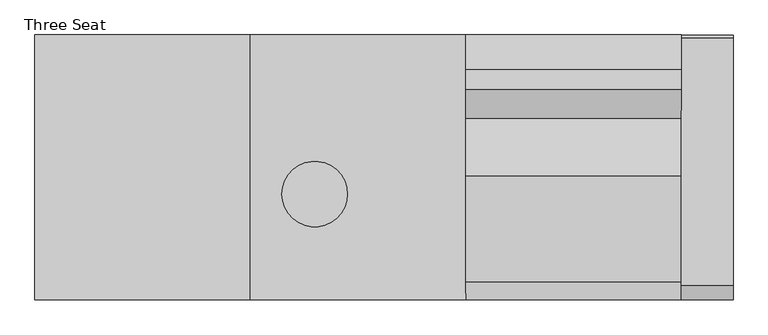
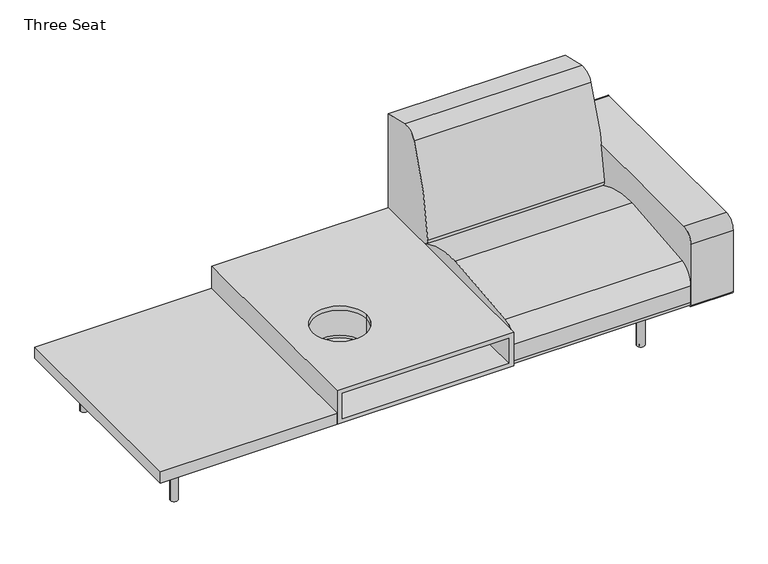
"""IFC4 building model written with IfcOpenShell, lengths in millimetres: furniture geometry, Coalesse_AM_Seating_LoungeChair_Sistema_LegBase_ThreeSeat : Three Seat."""

from ifc_helpers import new_model, si_unit, point, frame, frame_2d, origin, origin_with_axes, place, context, project, spatial, polyline, circle_curve, trimmed, segment, composite_curve, outline, extrude, source, transform, mapped, element, save
from ifc_brep_helpers import plane_surface, revolved_surface, advanced_brep


def three_seat_79fc0003(model_context):
    return source(origin(), model_context, "Body", "SolidModel", [
        extrude(outline(polyline([(374.4965227, 459.4795619), (374.4965227, -461.2704381), (-374.8034773, -461.2704381), (-374.8034773, 459.4795619), (374.4965227, 459.4795619)])), frame((0.0, 0.0, 204.47), z_axis=(0.0, 0.0, 1.0), x_axis=(1.0, 0.0, 0.0)), (0.0, 0.0, 1.0), 51.0294654),
        advanced_brep(
        [(1102.9069667, -461.2704381, 336.5211742), (396.2928302, -461.2704381, 336.5211742), (396.2928302, 459.4795619, 336.5211742), (1102.9069667, 459.4795619, 336.5211742), (711.5952223, -93.7879891, 336.5211742), (484.2332034, -93.7879891, 336.5211742), (396.2928302, -461.2704381, 223.173587), (396.2928302, 459.4795619, 223.173587), (1123.7965227, -461.2704381, 354.7774), (374.4965227, -461.2704381, 354.7774), (374.4965227, -461.2704381, 204.47), (1123.7965227, -461.2704381, 204.47), (1102.9069667, -461.2704381, 223.173587), (1123.7965227, 459.4795619, 354.7774), (1123.7965227, 459.4795619, 204.47), (374.4965227, 459.4795619, 204.47), (374.4965227, 459.4795619, 354.7774), (1102.9069667, 459.4795619, 223.173587), (484.2332034, -93.7879891, 354.7774), (711.5952223, -93.7879891, 354.7774), (484.2332034, -93.7879891, 223.173587), (711.5952223, -93.7879891, 223.173587), (484.2332034, -93.7879891, 212.4123377), (711.5952223, -93.7879891, 212.4123377)],
        [
            (0, 1),
            (1, 2),
            (2, 3),
            (3, 0),
            (4, 5, circle_curve(frame((597.9142128, -93.7879891, 336.5211742), z_axis=(0.0, 0.0, 1.0), x_axis=(1.0, 0.0, 0.0)), 113.6810095)),
            (5, 4, circle_curve(frame((597.9142128, -93.7879891, 336.5211742), z_axis=(0.0, 0.0, 1.0), x_axis=(1.0, 0.0, 0.0)), 113.6810095)),
            (1, 6),
            (6, 7),
            (7, 2),
            (8, 9),
            (9, 10),
            (10, 11),
            (11, 8),
            (0, 12),
            (12, 6),
            (13, 14),
            (14, 15),
            (15, 16),
            (16, 13),
            (7, 17),
            (17, 3),
            (8, 13),
            (16, 9),
            (18, 19, circle_curve(frame((597.9142128, -93.7879891, 354.7774), z_axis=(0.0, 0.0, -1.0), x_axis=(1.0, 0.0, 0.0)), 113.6810095)),
            (19, 18, circle_curve(frame((597.9142128, -93.7879891, 354.7774), z_axis=(0.0, 0.0, -1.0), x_axis=(1.0, 0.0, 0.0)), 113.6810095)),
            (15, 10),
            (14, 11),
            (17, 12),
            (20, 21, circle_curve(frame((597.9142128, -93.7879891, 223.173587), z_axis=(0.0, 0.0, -1.0), x_axis=(1.0, 0.0, 0.0)), 113.6810095)),
            (21, 20, circle_curve(frame((597.9142128, -93.7879891, 223.173587), z_axis=(0.0, 0.0, -1.0), x_axis=(1.0, 0.0, 0.0)), 113.6810095)),
            (22, 23, circle_curve(frame((597.9142128, -93.7879891, 212.4123377), z_axis=(0.0, 0.0, 1.0), x_axis=(1.0, 0.0, 0.0)), 113.6810095)),
            (23, 22, circle_curve(frame((597.9142128, -93.7879891, 212.4123377), z_axis=(0.0, 0.0, 1.0), x_axis=(1.0, 0.0, 0.0)), 113.6810095)),
            (23, 21),
            (20, 22),
            (18, 5),
            (4, 19),
        ],
        [
            plane_surface(frame((396.2928302, -461.2704381, 336.5211742), z_axis=(0.0, 0.0, -1.0), x_axis=(0.0, 1.0, 0.0))),
            plane_surface(frame((396.2928302, -461.2704381, 223.173587), z_axis=(1.0, 0.0, 0.0), x_axis=(0.0, 1.0, 0.0))),
            plane_surface(frame((378.0346424, -461.2704381, 354.7774), z_axis=(0.0, -1.0, 0.0), x_axis=(-1.0, 0.0, 0.0))),
            plane_surface(frame((378.0346424, 459.4795619, 354.7774), z_axis=(0.0, 1.0, 0.0), x_axis=(1.0, 0.0, 0.0))),
            plane_surface(frame((1123.7965227, -461.2704381, 354.7774), z_axis=(0.0, 0.0, 1.0), x_axis=(0.0, 1.0, 0.0))),
            plane_surface(frame((374.4965227, -461.2704381, 354.7774), z_axis=(-1.0, 0.0, 0.0), x_axis=(0.0, 1.0, 0.0))),
            plane_surface(frame((374.4965227, -461.2704381, 204.47), z_axis=(0.0, 0.0, -1.0), x_axis=(0.0, 1.0, 0.0))),
            plane_surface(frame((1123.7965227, -461.2704381, 204.47), z_axis=(1.0, 0.0, 0.0), x_axis=(0.0, 1.0, 0.0))),
            plane_surface(frame((1102.9069667, -461.2704381, 336.5211742), z_axis=(-1.0, 0.0, 0.0), x_axis=(0.0, 1.0, 0.0))),
            plane_surface(frame((1102.9069667, -461.2704381, 223.173587), z_axis=(0.0, 0.0, 1.0), x_axis=(0.0, 1.0, 0.0))),
            plane_surface(frame((711.5952223, -93.7879891, 212.4123377), z_axis=(0.0, 0.0, 1.0), x_axis=(0.0, -1.0, 0.0))),
            revolved_surface(polyline([(711.5952222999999, -93.7879891, 212.41233770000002), (711.5952222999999, -93.7879891, 223.173587)]), (597.9142128, -93.7879891, 496.2226929), (0.0, 0.0, -1.0)),
            revolved_surface(polyline([(711.5952222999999, -93.7879891, 336.5211742), (711.5952222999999, -93.7879891, 354.7774)]), (597.9142128, -93.7879891, 496.2226929), (0.0, 0.0, -1.0)),
        ],
        [
            (0, [[1, 2, 3, 4], [5, 6]]),
            (1, [[7, 8, 9, -2]]),
            (2, [[10, 11, 12, 13], [14, 15, -7, -1]]),
            (3, [[16, 17, 18, 19], [-3, -9, 20, 21]]),
            (4, [[-10, 22, -19, 23], [24, 25]]),
            (5, [[-11, -23, -18, 26]]),
            (6, [[-12, -26, -17, 27]]),
            (7, [[-13, -27, -16, -22]]),
            (8, [[-14, -4, -21, 28]]),
            (9, [[-15, -28, -20, -8], [29, 30]]),
            (10, [[31, 32]]),
            (11, [[-32, 33, -29, 34]]),
            (12, [[35, -5, 36, -24]]),
            (11, [[-31, -34, -30, -33]]),
            (12, [[-35, -25, -36, -6]]),
        ],
    ),
        extrude(outline(composite_curve([segment(trimmed(circle_curve(frame_2d((597.9142128, -93.7879891)), 127.924967), [point((469.9892458, -93.7879891))], [point((725.8391799, -93.7879891))], False, "CARTESIAN"), True, "CONTINUOUS"), segment(trimmed(circle_curve(frame_2d((597.9142128, -93.7879891)), 127.924967), [point((725.8391799, -93.7879891))], [point((469.9892458, -93.7879891))], False, "CARTESIAN"), True, "CONTINUOUS")], self_intersect=False), holes=[composite_curve([segment(trimmed(circle_curve(frame_2d((597.9142128, -93.7879891)), 113.6810095), [point((484.2332034, -93.7879891))], [point((711.5952223, -93.7879891))], True, "CARTESIAN"), True, "CONTINUOUS"), segment(trimmed(circle_curve(frame_2d((597.9142128, -93.7879891)), 113.6810095), [point((711.5952223, -93.7879891))], [point((484.2332034, -93.7879891))], True, "CARTESIAN"), True, "CONTINUOUS")], self_intersect=False)]), frame((0.0, 0.0, 212.4123377), z_axis=(0.0, 0.0, 1.0), x_axis=(1.0, 0.0, 0.0)), (0.0, 0.0, 1.0), 124.1087275),
        extrude(outline(composite_curve([segment(polyline([(-461.2704381, 212.4103341), (-461.2704381, 487.0244726)]), True, "CONTINUOUS"), segment(trimmed(circle_curve(frame_2d((-410.4704381, 487.0244726)), 50.8), [point((-461.2704381, 487.0244726))], [point((-410.4704381, 537.8244726))], False, "CARTESIAN"), True, "CONTINUOUS"), segment(polyline([(-410.4704381, 537.8244726), (450.1139321, 537.8244726)]), True, "CONTINUOUS"), segment(trimmed(circle_curve(frame_2d((450.1139321, 530.2044726)), 7.62), [point((450.1139321, 537.8244726))], [point((457.7339321, 530.2044726))], False, "CARTESIAN"), True, "CONTINUOUS"), segment(polyline([(457.7339321, 530.2044726), (457.7339321, 217.4903341)]), True, "CONTINUOUS"), segment(trimmed(circle_curve(frame_2d((445.0339321, 217.4903341)), 12.7), [point((457.7339321, 217.4903341))], [point((445.0339321, 204.7903341))], False, "CARTESIAN"), True, "CONTINUOUS"), segment(polyline([(445.0339321, 204.7903341), (-453.6504381, 204.7903341)]), True, "CONTINUOUS"), segment(trimmed(circle_curve(frame_2d((-453.6504381, 212.4103341)), 7.62), [point((-453.6504381, 204.7903341))], [point((-461.2704381, 212.4103341))], False, "CARTESIAN"), True, "CONTINUOUS")], self_intersect=False)), frame((1873.0965227, 0.0, 0.0), z_axis=(1.0, 0.0, 0.0), x_axis=(0.0, 1.0, 0.0)), (0.0, 0.0, 1.0), 179.5663651),
        extrude(outline(composite_curve([segment(polyline([(459.4795619, 775.8234697), (459.4795619, 228.1929806)]), True, "CONTINUOUS"), segment(trimmed(circle_curve(frame_2d((191.495971, 228.1929806)), 267.983591), [point((459.4795619, 228.1929806))], [point((458.9860775, 211.937276))], False, "CARTESIAN"), True, "CONTINUOUS"), segment(polyline([(458.9860775, 211.937276), (183.8457951, 360.6719742)]), True, "CONTINUOUS"), segment(trimmed(circle_curve(frame_2d((195.9245701, 383.0161724)), 25.4), [point((183.8457951, 360.6719742))], [point((170.6161698, 385.1713698))], False, "CARTESIAN"), True, "CONTINUOUS"), segment(trimmed(circle_curve(frame_2d((1327.5544182, 286.6495247)), 1161.1256023), [point((170.6161698, 385.1713698))], [point((271.1088001, 768.4537592))], False, "CARTESIAN"), True, "CONTINUOUS"), segment(trimmed(circle_curve(frame_2d((326.5730192, 743.158661)), 60.96), [point((271.1088001, 768.4537592))], [point((339.9143278, 802.6408523))], False, "CARTESIAN"), True, "CONTINUOUS"), segment(polyline([(339.9143278, 802.6408523), (459.4795619, 775.8234697)]), True, "CONTINUOUS")], self_intersect=False)), frame((1123.7965227, 0.0, 0.0), z_axis=(1.0, 0.0, 0.0), x_axis=(0.0, 1.0, 0.0)), (0.0, 0.0, 1.0), 749.3),
        extrude(outline(composite_curve([segment(trimmed(circle_curve(frame_2d((-438.9184381, 226.822)), 22.352), [point((-438.9184381, 204.47))], [point((-461.2704381, 226.822))], False, "CARTESIAN"), True, "CONTINUOUS"), segment(polyline([(-461.2704381, 226.822), (-461.2704381, 301.4421993)]), True, "CONTINUOUS"), segment(trimmed(circle_curve(frame_2d((-385.0704381, 301.4421993)), 76.2), [point((-461.2704381, 301.4421993))], [point((-398.9277015, 376.3716077))], False, "CARTESIAN"), True, "CONTINUOUS"), segment(trimmed(circle_curve(frame_2d((2.2103559, -1792.6740646)), 2205.8265729), [point((-398.9277015, 376.3716077))], [point((-31.1968175, 412.8995185))], False, "CARTESIAN"), True, "CONTINUOUS"), segment(trimmed(circle_curve(frame_2d((-24.5128424, -28.3829182)), 441.333054), [point((-31.1968175, 412.8995185))], [point((184.5757008, 360.2774035))], False, "CARTESIAN"), True, "CONTINUOUS"), segment(polyline([(184.5757008, 360.2774035), (458.9860775, 211.937276)]), True, "CONTINUOUS"), segment(trimmed(circle_curve(frame_2d((442.3266309, 226.7871991)), 22.3171991), [point((458.9860775, 211.937276))], [point((442.3266309, 204.47))], False, "CARTESIAN"), True, "CONTINUOUS"), segment(polyline([(442.3266309, 204.47), (-438.9184381, 204.47)]), True, "CONTINUOUS")], self_intersect=False)), frame((1123.7965227, 0.0, 0.0), z_axis=(1.0, 0.0, 0.0), x_axis=(0.0, 1.0, 0.0)), (0.0, 0.0, 1.0), 749.3),
        extrude(outline(composite_curve([segment(trimmed(circle_curve(frame_2d((1738.4765227, 335.9943389)), 6.096), [point((1744.5725227, 335.9943389))], [point((1732.3805227, 335.9943389))], False, "CARTESIAN"), True, "CONTINUOUS"), segment(trimmed(circle_curve(frame_2d((1738.4765227, 335.9943389)), 6.096), [point((1732.3805227, 335.9943389))], [point((1744.5725227, 335.9943389))], False, "CARTESIAN"), True, "CONTINUOUS")], self_intersect=False)), origin_with_axes(), (0.0, 0.0, 1.0), 4.3662291),
        extrude(outline(composite_curve([segment(trimmed(circle_curve(frame_2d((1738.4765227, -327.2630889)), 6.096), [point((1744.5725227, -327.2630889))], [point((1732.3805227, -327.2630889))], False, "CARTESIAN"), True, "CONTINUOUS"), segment(trimmed(circle_curve(frame_2d((1738.4765227, -327.2630889)), 6.096), [point((1732.3805227, -327.2630889))], [point((1744.5725227, -327.2630889))], False, "CARTESIAN"), True, "CONTINUOUS")], self_intersect=False)), origin_with_axes(), (0.0, 0.0, 1.0), 4.3662291),
        extrude(outline(composite_curve([segment(polyline([(157.0399209, 1751.056375), (201.7356243, 1751.056375)]), True, "CONTINUOUS"), segment(trimmed(circle_curve(frame_2d((201.7356243, 1748.008375)), 3.048), [point((201.7356243, 1751.056375))], [point((204.7836243, 1748.008375))], False, "CARTESIAN"), True, "CONTINUOUS"), segment(polyline([(204.7836243, 1748.008375), (204.7836243, 1728.666199)]), True, "CONTINUOUS"), segment(trimmed(circle_curve(frame_2d((201.7356243, 1728.666199)), 3.048), [point((204.7836243, 1728.666199))], [point((201.7356243, 1725.618199))], False, "CARTESIAN"), True, "CONTINUOUS"), segment(polyline([(201.7356243, 1725.618199), (157.1249936, 1725.618199)]), True, "CONTINUOUS"), segment(trimmed(circle_curve(frame_2d((157.1249936, 1728.7512718)), 3.1330728), [point((157.1249936, 1725.618199))], [point((153.9919209, 1728.7512718))], False, "CARTESIAN"), True, "CONTINUOUS"), segment(polyline([(153.9919209, 1728.7512718), (153.9919209, 1748.008375)]), True, "CONTINUOUS"), segment(trimmed(circle_curve(frame_2d((157.0399209, 1748.008375)), 3.048), [point((153.9919209, 1748.008375))], [point((157.0399209, 1751.056375))], False, "CARTESIAN"), True, "CONTINUOUS")], self_intersect=False)), frame((0.0, 222.3519802, 0.0), z_axis=(0.0, 1.0, 0.0), x_axis=(0.0, 0.0, 1.0)), (0.0, 0.0, 1.0), 92.6273161),
        extrude(outline(composite_curve([segment(polyline([(157.0399209, 1751.056375), (201.7356243, 1751.056375)]), True, "CONTINUOUS"), segment(trimmed(circle_curve(frame_2d((201.7356243, 1748.008375)), 3.048), [point((201.7356243, 1751.056375))], [point((204.7836243, 1748.008375))], False, "CARTESIAN"), True, "CONTINUOUS"), segment(polyline([(204.7836243, 1748.008375), (204.7836243, 1728.666199)]), True, "CONTINUOUS"), segment(trimmed(circle_curve(frame_2d((201.7356243, 1728.666199)), 3.048), [point((204.7836243, 1728.666199))], [point((201.7356243, 1725.618199))], False, "CARTESIAN"), True, "CONTINUOUS"), segment(polyline([(201.7356243, 1725.618199), (157.1249936, 1725.618199)]), True, "CONTINUOUS"), segment(trimmed(circle_curve(frame_2d((157.1249936, 1728.7512718)), 3.1330728), [point((157.1249936, 1725.618199))], [point((153.9919209, 1728.7512718))], False, "CARTESIAN"), True, "CONTINUOUS"), segment(polyline([(153.9919209, 1728.7512718), (153.9919209, 1748.008375)]), True, "CONTINUOUS"), segment(trimmed(circle_curve(frame_2d((157.0399209, 1748.008375)), 3.048), [point((153.9919209, 1748.008375))], [point((157.0399209, 1751.056375))], False, "CARTESIAN"), True, "CONTINUOUS")], self_intersect=False)), frame((0.0, -314.9792963, 0.0), z_axis=(0.0, 1.0, 0.0), x_axis=(0.0, 0.0, 1.0)), (0.0, 0.0, 1.0), 92.6273161),
        extrude(outline(composite_curve([segment(trimmed(circle_curve(frame_2d((176.3356606, 1715.8259944)), 3.048), [point((179.3836606, 1715.8259944))], [point((176.3356606, 1712.7779944))], False, "CARTESIAN"), True, "CONTINUOUS"), segment(polyline([(176.3356606, 1712.7779944), (157.0399209, 1712.7779944)]), True, "CONTINUOUS"), segment(trimmed(circle_curve(frame_2d((157.0399209, 1715.8259944)), 3.048), [point((157.0399209, 1712.7779944))], [point((153.9919209, 1715.8259944))], False, "CARTESIAN"), True, "CONTINUOUS"), segment(polyline([(153.9919209, 1715.8259944), (153.9919209, 1760.5135501)]), True, "CONTINUOUS"), segment(trimmed(circle_curve(frame_2d((157.056462, 1760.5135501)), 3.0645412), [point((153.9919209, 1760.5135501))], [point((157.056462, 1763.5780913))], False, "CARTESIAN"), True, "CONTINUOUS"), segment(polyline([(157.056462, 1763.5780913), (176.3356606, 1763.5780913)]), True, "CONTINUOUS"), segment(trimmed(circle_curve(frame_2d((176.3356606, 1760.5300913)), 3.048), [point((176.3356606, 1763.5780913))], [point((179.3836606, 1760.5300913))], False, "CARTESIAN"), True, "CONTINUOUS"), segment(polyline([(179.3836606, 1760.5300913), (179.3836606, 1715.8259944)]), True, "CONTINUOUS")], self_intersect=False)), frame((0.0, -222.3519802, 0.0), z_axis=(0.0, 1.0, 0.0), x_axis=(0.0, 0.0, 1.0)), (0.0, 0.0, 1.0), 444.7039604),
        extrude(outline(composite_curve([segment(trimmed(circle_curve(frame_2d((1738.4765227, 332.3095741)), 16.51), [point((1754.9865227, 332.3095741))], [point((1721.9665227, 332.3095741))], False, "CARTESIAN"), True, "CONTINUOUS"), segment(trimmed(circle_curve(frame_2d((1738.4765227, 332.3095741)), 16.51), [point((1721.9665227, 332.3095741))], [point((1754.9865227, 332.3095741))], False, "CARTESIAN"), True, "CONTINUOUS")], self_intersect=False)), frame((0.0, 0.0, 4.3662291), z_axis=(0.0, 0.0, 1.0), x_axis=(1.0, 0.0, 0.0)), (0.0, 0.0, 1.0), 200.1037709),
        extrude(outline(composite_curve([segment(trimmed(circle_curve(frame_2d((1738.0796477, -327.5470741)), 16.51), [point((1754.5896477, -327.5470741))], [point((1721.5696477, -327.5470741))], False, "CARTESIAN"), True, "CONTINUOUS"), segment(trimmed(circle_curve(frame_2d((1738.0796477, -327.5470741)), 16.51), [point((1721.5696477, -327.5470741))], [point((1754.5896477, -327.5470741))], False, "CARTESIAN"), True, "CONTINUOUS")], self_intersect=False)), frame((0.0, 0.0, 4.3662291), z_axis=(0.0, 0.0, 1.0), x_axis=(1.0, 0.0, 0.0)), (0.0, 0.0, 1.0), 200.1037709),
        extrude(outline(composite_curve([segment(trimmed(circle_curve(frame_2d((-240.1834773, 335.9943389)), 6.096), [point((-246.2794773, 335.9943389))], [point((-234.0874773, 335.9943389))], False, "CARTESIAN"), True, "CONTINUOUS"), segment(trimmed(circle_curve(frame_2d((-240.1834773, 335.9943389)), 6.096), [point((-234.0874773, 335.9943389))], [point((-246.2794773, 335.9943389))], False, "CARTESIAN"), True, "CONTINUOUS")], self_intersect=False)), origin_with_axes(), (0.0, 0.0, 1.0), 4.3662291),
        extrude(outline(composite_curve([segment(trimmed(circle_curve(frame_2d((-240.1834773, -327.2630889)), 6.096), [point((-246.2794773, -327.2630889))], [point((-234.0874773, -327.2630889))], False, "CARTESIAN"), True, "CONTINUOUS"), segment(trimmed(circle_curve(frame_2d((-240.1834773, -327.2630889)), 6.096), [point((-234.0874773, -327.2630889))], [point((-246.2794773, -327.2630889))], False, "CARTESIAN"), True, "CONTINUOUS")], self_intersect=False)), origin_with_axes(), (0.0, 0.0, 1.0), 4.3662291),
        extrude(outline(composite_curve([segment(trimmed(circle_curve(frame_2d((157.0399209, -249.7153296)), 3.048), [point((157.0399209, -252.7633296))], [point((153.9919209, -249.7153296))], False, "CARTESIAN"), True, "CONTINUOUS"), segment(polyline([(153.9919209, -249.7153296), (153.9919209, -230.4582264)]), True, "CONTINUOUS"), segment(trimmed(circle_curve(frame_2d((157.1249936, -230.4582264)), 3.1330728), [point((153.9919209, -230.4582264))], [point((157.1249936, -227.3251537))], False, "CARTESIAN"), True, "CONTINUOUS"), segment(polyline([(157.1249936, -227.3251537), (201.7356243, -227.3251537)]), True, "CONTINUOUS"), segment(trimmed(circle_curve(frame_2d((201.7356243, -230.3731537)), 3.048), [point((201.7356243, -227.3251537))], [point((204.7836243, -230.3731537))], False, "CARTESIAN"), True, "CONTINUOUS"), segment(polyline([(204.7836243, -230.3731537), (204.7836243, -249.7153296)]), True, "CONTINUOUS"), segment(trimmed(circle_curve(frame_2d((201.7356243, -249.7153296)), 3.048), [point((204.7836243, -249.7153296))], [point((201.7356243, -252.7633296))], False, "CARTESIAN"), True, "CONTINUOUS"), segment(polyline([(201.7356243, -252.7633296), (157.0399209, -252.7633296)]), True, "CONTINUOUS")], self_intersect=False)), frame((0.0, 222.3519802, 0.0), z_axis=(0.0, 1.0, 0.0), x_axis=(0.0, 0.0, 1.0)), (0.0, 0.0, 1.0), 92.6273161),
        extrude(outline(composite_curve([segment(trimmed(circle_curve(frame_2d((157.0399209, -249.7153296)), 3.048), [point((157.0399209, -252.7633296))], [point((153.9919209, -249.7153296))], False, "CARTESIAN"), True, "CONTINUOUS"), segment(polyline([(153.9919209, -249.7153296), (153.9919209, -230.4582264)]), True, "CONTINUOUS"), segment(trimmed(circle_curve(frame_2d((157.1249936, -230.4582264)), 3.1330728), [point((153.9919209, -230.4582264))], [point((157.1249936, -227.3251537))], False, "CARTESIAN"), True, "CONTINUOUS"), segment(polyline([(157.1249936, -227.3251537), (201.7356243, -227.3251537)]), True, "CONTINUOUS"), segment(trimmed(circle_curve(frame_2d((201.7356243, -230.3731537)), 3.048), [point((201.7356243, -227.3251537))], [point((204.7836243, -230.3731537))], False, "CARTESIAN"), True, "CONTINUOUS"), segment(polyline([(204.7836243, -230.3731537), (204.7836243, -249.7153296)]), True, "CONTINUOUS"), segment(trimmed(circle_curve(frame_2d((201.7356243, -249.7153296)), 3.048), [point((204.7836243, -249.7153296))], [point((201.7356243, -252.7633296))], False, "CARTESIAN"), True, "CONTINUOUS"), segment(polyline([(201.7356243, -252.7633296), (157.0399209, -252.7633296)]), True, "CONTINUOUS")], self_intersect=False)), frame((0.0, -314.9792963, 0.0), z_axis=(0.0, 1.0, 0.0), x_axis=(0.0, 0.0, 1.0)), (0.0, 0.0, 1.0), 92.6273161),
        extrude(outline(composite_curve([segment(polyline([(179.3836606, -217.532949), (179.3836606, -262.2370459)]), True, "CONTINUOUS"), segment(trimmed(circle_curve(frame_2d((176.3356606, -262.2370459)), 3.048), [point((179.3836606, -262.2370459))], [point((176.3356606, -265.2850459))], False, "CARTESIAN"), True, "CONTINUOUS"), segment(polyline([(176.3356606, -265.2850459), (157.056462, -265.2850459)]), True, "CONTINUOUS"), segment(trimmed(circle_curve(frame_2d((157.056462, -262.2205047)), 3.0645412), [point((157.056462, -265.2850459))], [point((153.9919209, -262.2205047))], False, "CARTESIAN"), True, "CONTINUOUS"), segment(polyline([(153.9919209, -262.2205047), (153.9919209, -217.532949)]), True, "CONTINUOUS"), segment(trimmed(circle_curve(frame_2d((157.0399209, -217.532949)), 3.048), [point((153.9919209, -217.532949))], [point((157.0399209, -214.484949))], False, "CARTESIAN"), True, "CONTINUOUS"), segment(polyline([(157.0399209, -214.484949), (176.3356606, -214.484949)]), True, "CONTINUOUS"), segment(trimmed(circle_curve(frame_2d((176.3356606, -217.532949)), 3.048), [point((176.3356606, -214.484949))], [point((179.3836606, -217.532949))], False, "CARTESIAN"), True, "CONTINUOUS")], self_intersect=False)), frame((0.0, -222.3519802, 0.0), z_axis=(0.0, 1.0, 0.0), x_axis=(0.0, 0.0, 1.0)), (0.0, 0.0, 1.0), 444.7039604),
        extrude(outline(composite_curve([segment(trimmed(circle_curve(frame_2d((-240.1834773, 332.3095741)), 16.51), [point((-256.6934773, 332.3095741))], [point((-223.6734773, 332.3095741))], False, "CARTESIAN"), True, "CONTINUOUS"), segment(trimmed(circle_curve(frame_2d((-240.1834773, 332.3095741)), 16.51), [point((-223.6734773, 332.3095741))], [point((-256.6934773, 332.3095741))], False, "CARTESIAN"), True, "CONTINUOUS")], self_intersect=False)), frame((0.0, 0.0, 4.3662291), z_axis=(0.0, 0.0, 1.0), x_axis=(1.0, 0.0, 0.0)), (0.0, 0.0, 1.0), 200.1037709),
        extrude(outline(composite_curve([segment(trimmed(circle_curve(frame_2d((-239.7866023, -327.5470741)), 16.51), [point((-256.2966023, -327.5470741))], [point((-223.2766023, -327.5470741))], False, "CARTESIAN"), True, "CONTINUOUS"), segment(trimmed(circle_curve(frame_2d((-239.7866023, -327.5470741)), 16.51), [point((-223.2766023, -327.5470741))], [point((-256.2966023, -327.5470741))], False, "CARTESIAN"), True, "CONTINUOUS")], self_intersect=False)), frame((0.0, 0.0, 4.3662291), z_axis=(0.0, 0.0, 1.0), x_axis=(1.0, 0.0, 0.0)), (0.0, 0.0, 1.0), 200.1037709),
    ])


if __name__ == "__main__":
    model = new_model("IFC4")
    model_context = context("Model", 3, world=origin())
    ifc_project = project(units=[si_unit("LENGTHUNIT", "METRE", prefix="MILLI")], contexts=[model_context])
    site = spatial("IfcSite", under=ifc_project)
    building = spatial("IfcBuilding", under=site)
    placement = place(None, origin())
    three_seat_shape = three_seat_79fc0003(model_context)
    element("IfcFurniture", 1, ObjectType="Coalesse_AM_Seating_LoungeChair_Sistema_LegBase_ThreeSeat : Three Seat", at=placement, inside=building, context=model_context, shape_type="MappedRepresentation", body=[
        mapped(three_seat_shape, transform((0.0, 0.0, 0.0), x_axis=(1.0, 0.0, 0.0), y_axis=(0.0, 1.0, 0.0), z_axis=(0.0, 0.0, 1.0))),
    ])
    save(model, "model.ifc")
